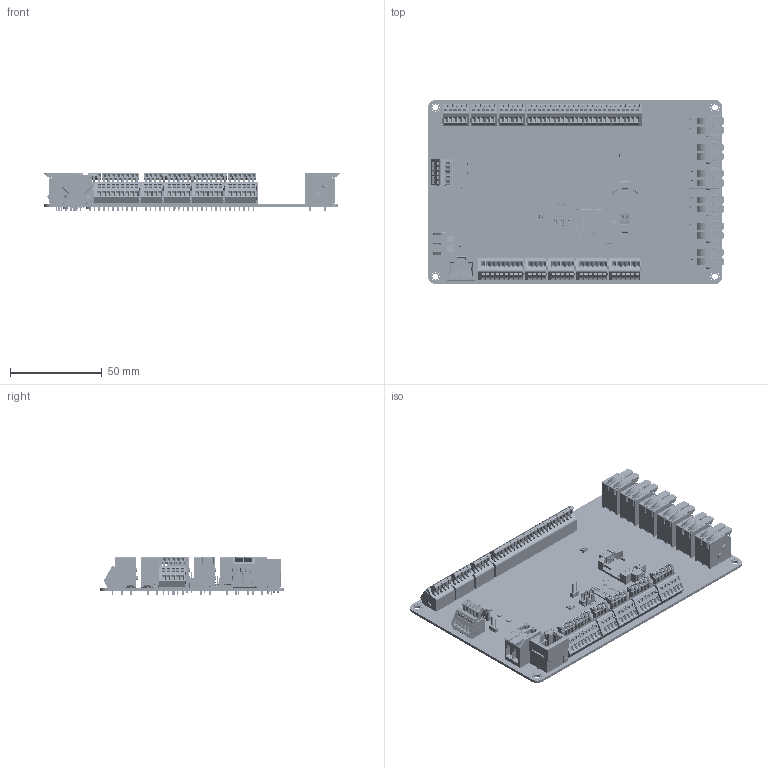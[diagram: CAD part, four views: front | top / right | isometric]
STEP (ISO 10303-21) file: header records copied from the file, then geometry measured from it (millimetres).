
FILE_DESCRIPTION(('FreeCAD Model'),'2;1');
FILE_NAME('C:/systematica/Projects/Internal/uSSC/HW/PCB/uSSC-6/v1.0_revB/uSSC-6-v2.4/CAD/uSSC-6_minimalDetail.stp','2020-12-02T15:55:41',( 'Author'),(''),'Open CASCADE STEP processor 7.3','FreeCAD','Unknown' );
FILE_SCHEMA(('AUTOMOTIVE_DESIGN { 1 0 10303 214 1 1 1 1 }'));
Length unit declared in the file: millimetre
Products named in the file (31): LED1; J31_Output1; J1_Supply_Input; J33_Output3; LED2; JP1; SW2_RST; J32_Output2; J15_microUSB; J17_microSD; J10_CANBus; LED4; J18_RTC_Battery; J16_JTAG-SWD; LED3; J3_USB; J5_Ethernet; SW1_USR; J8_Rs485_2; J35_Output5; J36_Output6; J11_GPIOs; J9_RS232-485; J34_Output4; J22_Input5-8; J6_Ethernet; J7_RS485_1; J21_Input1-4; J23_input9-12; JP2; PCB
Bounding box: 160.9 x 100 x 20.7 mm (x, y, z)
Volume: 71129.1 mm3; surface area: 76932.8 mm2
Topology: 58 solids, 58 shells, 11835 faces, 31845 edges, 20589 vertices
Faces by surface type: plane 8365, cylinder 2957, cone 213, extrusion 152, torus 61, bspline 61, sphere 14, revolution 12
Full cylindrical faces by diameter (mm): 0.5 x32, 0.85 x8, 1 x36, 1.118 x100, 1.194 x48, 1.295 x28, 1.4 x20, 1.62 x2, 3.2 x4, 3.3 x2
Entity records: 446269 total; most frequent: CARTESIAN_POINT 72457, ORIENTED_EDGE 63678, DIRECTION 60626, EDGE_CURVE 31839, VECTOR 24414, LINE 24262, VERTEX_POINT 20589, AXIS2_PLACEMENT_3D 18100
